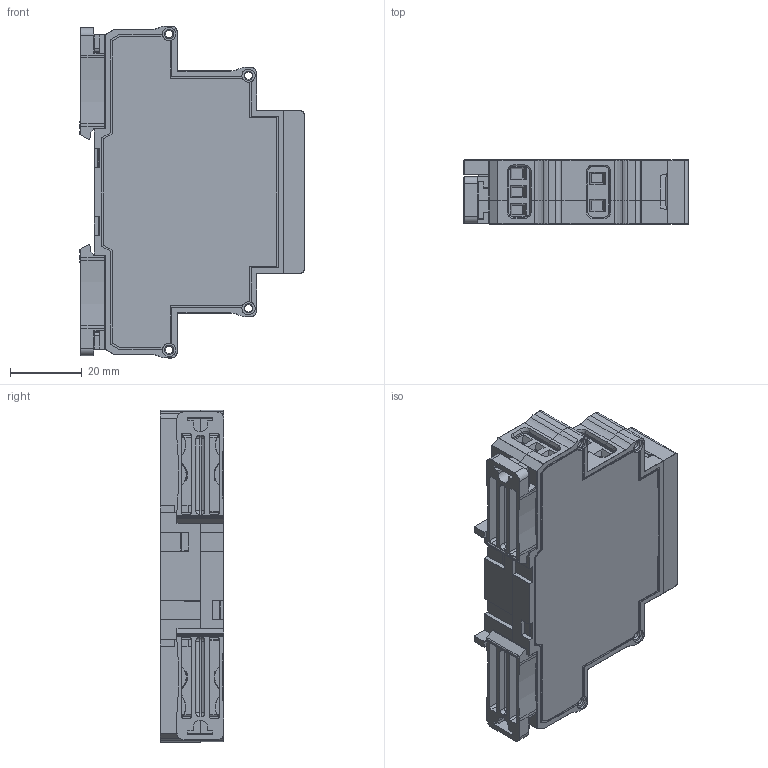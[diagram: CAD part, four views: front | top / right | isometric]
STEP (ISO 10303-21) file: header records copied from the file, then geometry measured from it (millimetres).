
FILE_DESCRIPTION(('STEP AP242'), '1');
FILE_NAME('ﾑ碚濱ﾌﾐﾏ-2_2025', '', ('UNSPECIFIED'), ('UNSPECIFIED'), 'C3D Converter', 'C3D Toolkit', '');
FILE_SCHEMA(('AP242_MANAGED_MODEL_BASED_3D_ENGINEERING_MIM_LF { 1 0 10303 442 1 1 4 }'));
Length unit declared in the file: millimetre
Products named in the file (14): Case_UC1-2sR-2024_SimpleModel_6mm; Case_UC1-2sR-2024_SimpleModel_11mm; UC1-2sR-2024_Plug_18mm; Case13-18-23mm_2step_Lock_v01a_Build20140909_1552; DG128-5.08_Configurable_5.08x3; ФР-М02_14-11-12; ФР-М02_А1-А2; рвп-3-1_24-22-21; МРП-2_лицо
Assembly tree (15 placements, depth 2):
  (unnamed)
    Case_UC1-2sR-2024_SimpleModel_6mm
    Case_UC1-2sR-2024_SimpleModel_11mm
    UC1-2sR-2024_Plug_18mm
    Case13-18-23mm_2step_Lock_v01a_Build20140909_1552  x2
    DG128-5.08_Configurable_5.08x3  x2
    (unnamed)
    (unnamed)
    (unnamed)
    ФР-М02_14-11-12
    ФР-М02_А1-А2
    рвп-3-1_24-22-21
    МРП-2_лицо
    (unnamed)
Bounding box: 62.53 x 17.75 x 92.4 mm (x, y, z)
Volume: 24689.2 mm3; surface area: 36802.8 mm2
Topology: 51 solids, 51 shells, 3519 faces, 9659 edges, 6241 vertices
Faces by surface type: plane 2706, cylinder 416, bspline 168, torus 113, cone 48, sphere 36, extrusion 32
Full cylindrical faces by diameter (mm): 1.238 x6, 2.1 x9, 2.2 x1, 3.7 x8, 3.9 x8
Entity records: 142779 total; most frequent: CARTESIAN_POINT 32502, ORIENTED_EDGE 18200, DIRECTION 15741, EDGE_CURVE 9100, VECTOR 7669, LINE 7637, VERTEX_POINT 5935, AXIS2_PLACEMENT_3D 4036
